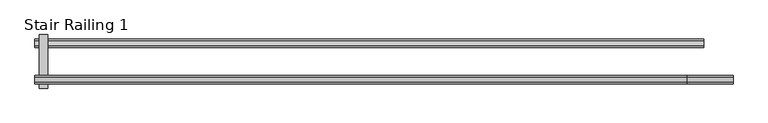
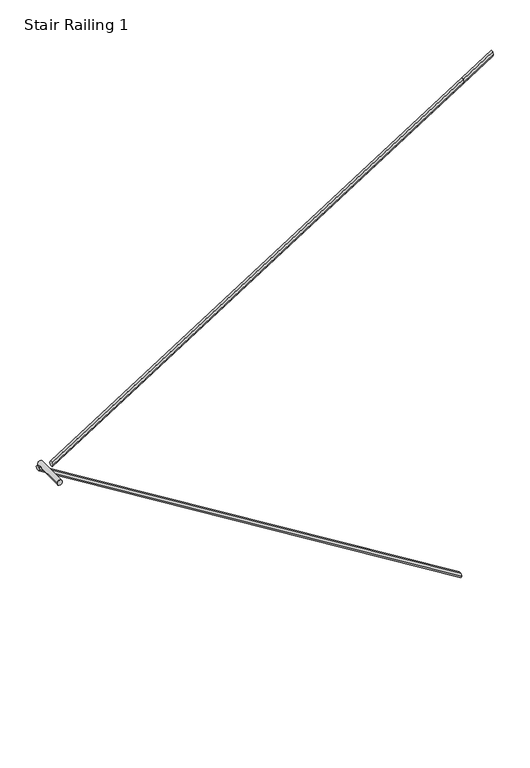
"""IFC4 building model written with IfcOpenShell, lengths in millimetres: railing geometry, Stair Railing 1."""

from ifc_helpers import new_model, si_unit, frame, origin, place, context, project, spatial, circle_curve, faceted_brep, source, transform, mapped, element, save
from ifc_brep_helpers import plane_surface, cylinder_surface, advanced_brep


def stair_railing_1_19f522ab(model_context):
    return source(origin(), model_context, "Body", "SolidModel", [
        faceted_brep([(46517.5398084, 46191.4865351, 3746.9096774), (46517.5398084, 46204.1865351, 3768.9067227), (46517.5398084, 46229.5865351, 3768.9067227), (46517.5398084, 46242.2865351, 3746.9096774), (46517.5398084, 46229.5865351, 3724.9126322), (46517.5398084, 46204.1865351, 3724.9126322), (50533.2139908, 46191.4865351, 1269.1806452), (50533.2139908, 46204.1865351, 1247.1835999), (50533.2139908, 46229.5865351, 1247.1835999), (50533.2139908, 46242.2865351, 1269.1806452), (50533.2139908, 46229.5865351, 1291.1776904), (50533.2139908, 46204.1865351, 1291.1776904)], [[[0, 1, 2, 3, 4, 5]], [[6, 7, 8, 9, 10, 11]], [[1, 0, 6, 11]], [[2, 1, 11, 10]], [[3, 2, 10, 9]], [[4, 3, 9, 8]], [[5, 4, 8, 7]], [[0, 5, 7, 6]]]),
        advanced_brep(
        [(46593.7398084, 45946.4030566, 3746.9096774), (46542.9398084, 45946.4030566, 3746.9096774), (46593.7398084, 46267.6865351, 3746.9096774), (46542.9398084, 46267.6865351, 3746.9096774)],
        [
            (0, 1, circle_curve(frame((46568.3398084, 45946.4030566, 3746.9096774), z_axis=(0.0, -1.0, 0.0), x_axis=(1.0, 0.0, 0.0)), 25.4)),
            (1, 0, circle_curve(frame((46568.3398084, 45946.4030566, 3746.9096774), z_axis=(0.0, -1.0, 0.0), x_axis=(1.0, 0.0, 0.0)), 25.4)),
            (2, 3, circle_curve(frame((46568.3398084, 46267.6865351, 3746.9096774), z_axis=(0.0, 1.0, 0.0), x_axis=(1.0, 0.0, 0.0)), 25.4)),
            (3, 2, circle_curve(frame((46568.3398084, 46267.6865351, 3746.9096774), z_axis=(0.0, 1.0, 0.0), x_axis=(1.0, 0.0, 0.0)), 25.4)),
            (0, 2),
            (3, 1),
        ],
        [
            plane_surface(frame((46593.7398084, 45946.4030566, 3721.5096774), z_axis=(0.0, -1.0, 0.0), x_axis=(0.0, 0.0, -1.0))),
            plane_surface(frame((46593.7398084, 46267.6865351, 3721.5096774), z_axis=(0.0, 1.0, 0.0), x_axis=(0.0, 0.0, 1.0))),
            cylinder_surface(frame((46568.3398084, 46267.6865351, 3746.9096774), z_axis=(0.0, -1.0, 0.0), x_axis=(1.0, 0.0, 0.0)), 25.4),
        ],
        [
            (0, [[1, 2]]),
            (1, [[3, 4]]),
            (2, [[-1, 5, -4, 6]]),
            (2, [[-2, -6, -3, -5]]),
        ],
    ),
        faceted_brep([(50429.1398084, 46022.6030566, 6401.6193548), (50429.1398084, 46009.9030566, 6423.6164001), (50429.1398084, 45984.5030566, 6423.6164001), (50429.1398084, 45971.8030566, 6401.6193548), (50429.1398084, 45984.5030566, 6379.6223096), (50429.1398084, 46009.9030566, 6379.6223096), (46517.5398084, 46022.6030566, 3923.8903226), (46517.5398084, 46009.9030566, 3901.8932773), (46517.5398084, 45984.5030566, 3901.8932773), (46517.5398084, 45971.8030566, 3923.8903226), (46517.5398084, 45984.5030566, 3945.8873678), (46517.5398084, 46009.9030566, 3945.8873678)], [[[0, 1, 2, 3, 4, 5]], [[6, 7, 8, 9, 10, 11]], [[1, 0, 6, 11]], [[2, 1, 11, 10]], [[3, 2, 10, 9]], [[4, 3, 9, 8]], [[5, 4, 8, 7]], [[0, 5, 7, 6]]]),
        faceted_brep([(50708.5398084, 46022.6030566, 6578.6), (50708.5398084, 46009.9030566, 6600.5970453), (50708.5398084, 45984.5030566, 6600.5970453), (50708.5398084, 45971.8030566, 6578.6), (50708.5398084, 45984.5030566, 6556.6029547), (50708.5398084, 46009.9030566, 6556.6029547), (50429.1398084, 46022.6030566, 6401.6193548), (50429.1398084, 46009.9030566, 6379.6223096), (50429.1398084, 45984.5030566, 6379.6223096), (50429.1398084, 45971.8030566, 6401.6193548), (50429.1398084, 45984.5030566, 6423.6164001), (50429.1398084, 46009.9030566, 6423.6164001)], [[[0, 1, 2, 3, 4, 5]], [[6, 7, 8, 9, 10, 11]], [[1, 0, 6, 11]], [[2, 1, 11, 10]], [[3, 2, 10, 9]], [[4, 3, 9, 8]], [[5, 4, 8, 7]], [[0, 5, 7, 6]]]),
    ])


if __name__ == "__main__":
    model = new_model("IFC4")
    model_context = context("Model", 3, world=origin())
    ifc_project = project(units=[si_unit("LENGTHUNIT", "METRE", prefix="MILLI")], contexts=[model_context])
    site = spatial("IfcSite", under=ifc_project)
    building = spatial("IfcBuilding", under=site)
    placement = place(None, origin())
    stair_railing_1_shape = stair_railing_1_19f522ab(model_context)
    element("IfcRailing", 1, ObjectType="Stair Railing 1", at=placement, inside=building, context=model_context, shape_type="MappedRepresentation", body=[
        mapped(stair_railing_1_shape, transform((0.0, 0.0, 0.0), x_axis=(1.0, 0.0, 0.0), y_axis=(0.0, 1.0, 0.0), z_axis=(0.0, 0.0, 1.0))),
    ])
    save(model, "model.ifc")
